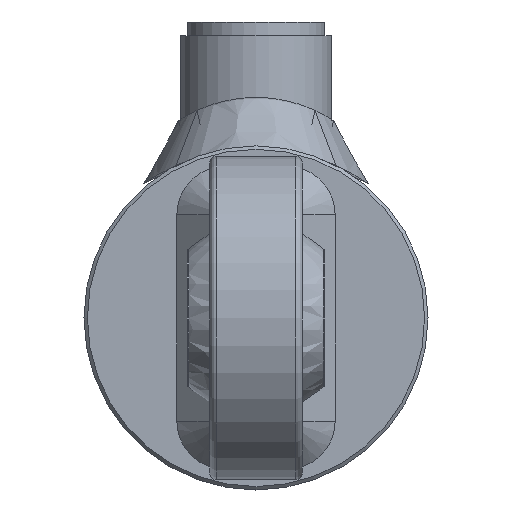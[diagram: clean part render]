
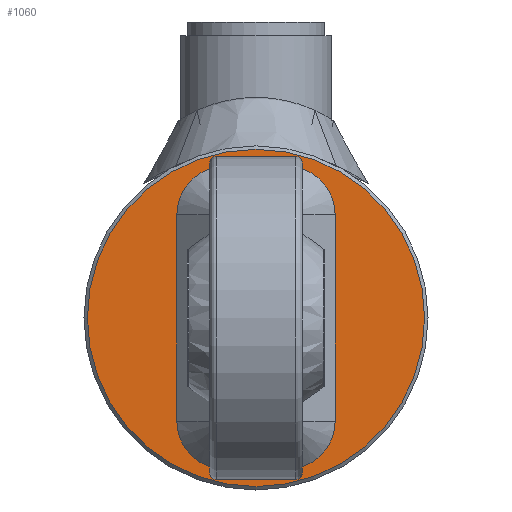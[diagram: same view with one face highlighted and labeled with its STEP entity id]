
A CAD part, left-side view. The second image highlights one B-rep face of the part: STEP entity #1060.
In plain terms, the highlighted planar face has unit normal (-1, 0, 0).
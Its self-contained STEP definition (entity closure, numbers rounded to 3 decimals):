
#1060 = ADVANCED_FACE( '', ( #1971 ), #1972, .T. );
#1971 = FACE_OUTER_BOUND( '', #3878, .T. );
#1972 = PLANE( '', #3879 );
#3878 = EDGE_LOOP( '', ( #7218 ) );
#3879 = AXIS2_PLACEMENT_3D( '', #7219, #7220, #7221 );
#7218 = ORIENTED_EDGE( '', *, *, #8778, .T. );
#7219 = CARTESIAN_POINT( '', ( -10., 0., 0. ) );
#7220 = DIRECTION( '', ( -1., 0., 0. ) );
#7221 = DIRECTION( '', ( 0., -1., 0. ) );
#8778 = EDGE_CURVE( '', #9698, #9698, #9699, .T. );
#9698 = VERTEX_POINT( '', #11016 );
#9699 = CIRCLE( '', #11017, 24.5 );
#11016 = CARTESIAN_POINT( '', ( -10., -24.5, 0. ) );
#11017 = AXIS2_PLACEMENT_3D( '', #13142, #13143, #13144 );
#13142 = CARTESIAN_POINT( '', ( -10., 0., 0. ) );
#13143 = DIRECTION( '', ( -1., 0., 0. ) );
#13144 = DIRECTION( '', ( 0., -1., 0. ) );
